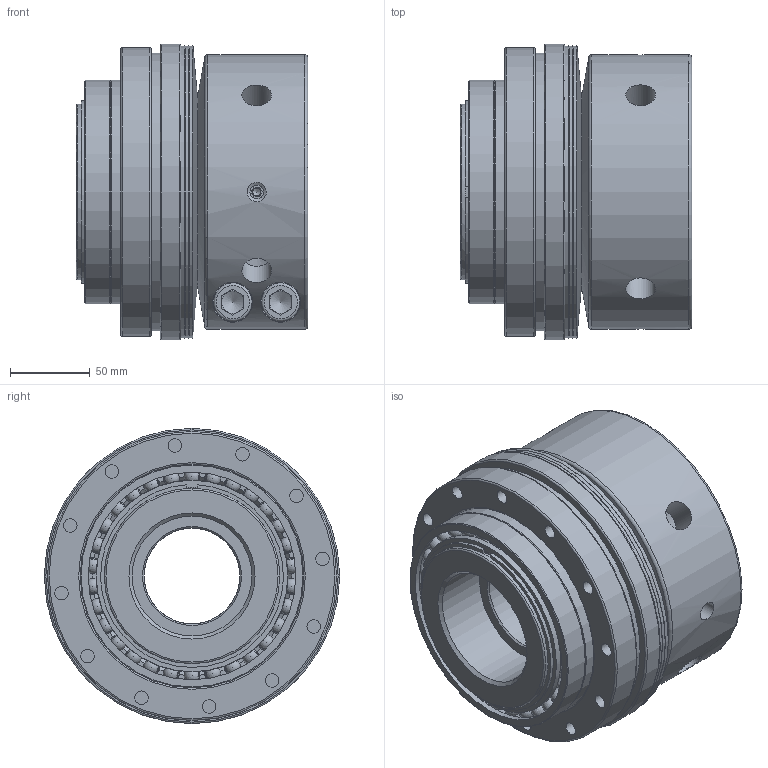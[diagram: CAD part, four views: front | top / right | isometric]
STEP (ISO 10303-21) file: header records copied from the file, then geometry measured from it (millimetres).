
FILE_DESCRIPTION( ( 'Unknown' ), '1' );
FILE_NAME( 'F:/JAKOB-STEP+IGES-Dateien/STEP-Dateien/SKB/SKB 3000.stp', 'Unknown', ( 'Unknown' ), ( 'Unknown' ), 'PSStep 10.1', 'Unknown', ' ' );
FILE_SCHEMA( ( 'AUTOMOTIVE_DESIGN { 1 0 10303 214 1 1 1 1 }' ) );
Length unit declared in the file: millimetre
Products named in the file (1): 23920632
Bounding box: 145.05 x 185 x 185 mm (x, y, z)
Volume: 2519432.1 mm3; surface area: 288731.8 mm2
Topology: 1 solids, 21 shells, 506 faces, 1698 edges, 1128 vertices
Faces by surface type: torus 177, cylinder 127, plane 109, sphere 60, cone 33
Full cylindrical faces by diameter (mm): 8.5 x15, 12 x2, 14 x2, 16 x2, 16.5 x2, 18.5 x4, 24 x2, 25 x2, 60 x1, 75 x1, 107.7 x2, 109.8 x1, 110 x5, 114.93 x1, 117 x1, 120 x3, 130 x3, 140 x2, 174 x1, 181 x1, 182.599 x2, 185 x1
Entity records: 28222 total; most frequent: CARTESIAN_POINT 11694, ORIENTED_EDGE 2718, DIRECTION 2322, EDGE_CURVE 1359, AXIS2_PLACEMENT_3D 1046, VERTEX_POINT 952, EDGE_LOOP 703, B_SPLINE_CURVE_WITH_KNOTS 590
